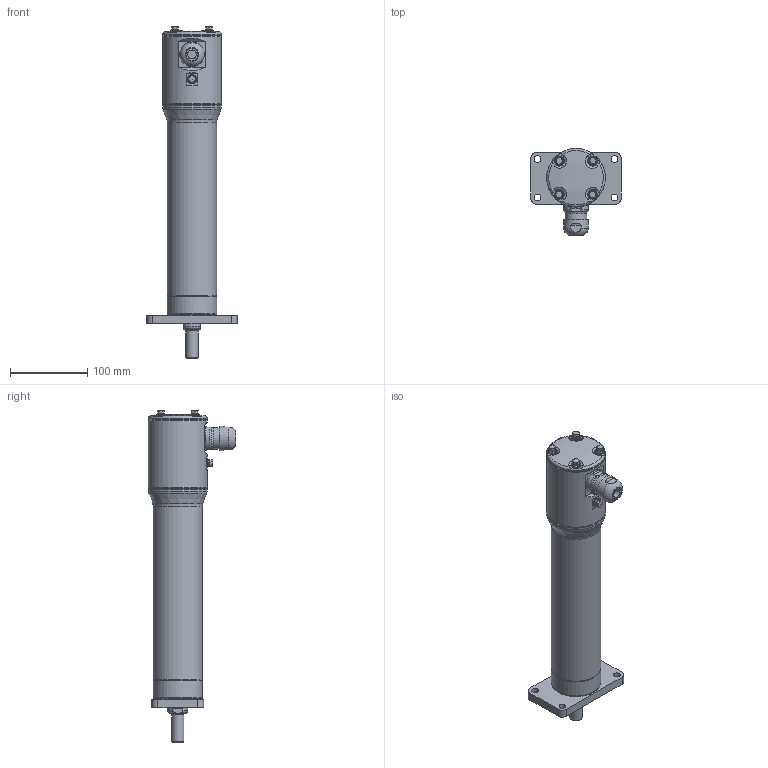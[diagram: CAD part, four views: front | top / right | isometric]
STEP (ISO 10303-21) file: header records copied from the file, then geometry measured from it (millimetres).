
FILE_DESCRIPTION (( 'STEP AP203' ), '1' );
FILE_NAME ('IMAST22_BN05_SM150.000_IMAS-491667-1.step', '2025-06-27T12:55:30', ( '' ), ( '' ), 'SwSTEP 2.0', 'SolidWorks 2024', '' );
FILE_SCHEMA (( 'CONFIG_CONTROL_DESIGN' ));
Length unit declared in the file: inch
Products named in the file (4): Base_IMAST22_BN05_SM150.000_IMAS-491667-1; tempJoin0_26229075_IMAST22_BN05_SM150.000_IMAS-491667-1; tempJoin0_26229006_IMAST22_BN05_SM150.000_IMAS-491667-1; IMAST22_BN05_SM150.000_IMAS-491667-1
Assembly tree (3 placements, depth 2):
  IMAST22_BN05_SM150.000_IMAS-491667-1
    tempJoin0_26229075_IMAST22_BN05_SM150.000_IMAS-491667-1
    tempJoin0_26229006_IMAST22_BN05_SM150.000_IMAS-491667-1
    Base_IMAST22_BN05_SM150.000_IMAS-491667-1
Bounding box: 117.35 x 113.15 x 430.75 mm (x, y, z)
Volume: 1407004.7 mm3; surface area: 166212.5 mm2
Topology: 3 solids, 20 shells, 458 faces, 1041 edges, 685 vertices
Faces by surface type: plane 185, cylinder 172, cone 60, torus 33, sphere 5, bspline 3
Full cylindrical faces by diameter (mm): 3.36 x1, 5 x8, 6 x12, 6.7 x8, 8.738 x4, 10 x8, 10.7 x5, 10.795 x4, 11.1 x4, 11.5 x1, 13.411 x1, 15.8 x1, 15.85 x1, 17.6 x1, 20.2 x1, 24.983 x1, 25.385 x1, 25.4 x2, 25.654 x1, 27.7 x1, 30 x2, 31.686 x1, 31.76 x1, 31.8 x2, 31.953 x1, 34.773 x1, 35.475 x1, 35.538 x1, 60.63 x1, 63.927 x2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
Entity records: 13415 total; most frequent: CARTESIAN_POINT 3661, DIRECTION 1932, ORIENTED_EDGE 1674, EDGE_CURVE 837, AXIS2_PLACEMENT_3D 832, EDGE_LOOP 698, VERTEX_POINT 623, FACE_OUTER_BOUND 573
